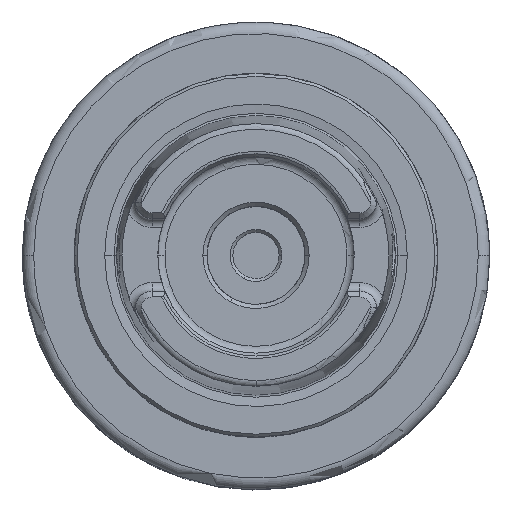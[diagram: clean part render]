
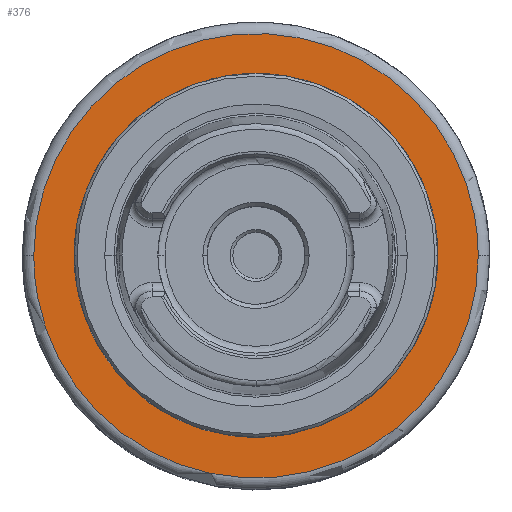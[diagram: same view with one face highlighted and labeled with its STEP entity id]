
A CAD part, top view. The second image highlights one B-rep face of the part: STEP entity #376.
In plain terms, the highlighted planar face has unit normal (0, 0, 1).
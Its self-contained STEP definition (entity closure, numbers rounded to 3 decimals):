
#209=AXIS2_PLACEMENT_3D('Circle Axis2P3D',#207,#208,$) ;
#310=AXIS2_PLACEMENT_3D('Plane Axis2P3D',#307,#308,#309) ;
#204=CARTESIAN_POINT('Vertex',(28.85,0.,-54.45)) ;
#207=CARTESIAN_POINT('Axis2P3D Location',(0.,0.,-54.45)) ;
#211=CARTESIAN_POINT('Vertex',(-28.85,0.,-54.45)) ;
#283=CARTESIAN_POINT('Control Point',(28.85,0.,-54.45)) ;
#284=CARTESIAN_POINT('Control Point',(28.85,-4.532,-54.45)) ;
#285=CARTESIAN_POINT('Control Point',(27.96,-9.063,-54.45)) ;
#286=CARTESIAN_POINT('Control Point',(26.18,-13.362,-54.45)) ;
#287=CARTESIAN_POINT('Control Point',(21.029,-21.029,-54.45)) ;
#288=CARTESIAN_POINT('Control Point',(13.362,-26.18,-54.45)) ;
#289=CARTESIAN_POINT('Control Point',(9.063,-27.96,-54.45)) ;
#290=CARTESIAN_POINT('Control Point',(0.,-29.74,-54.45)) ;
#291=CARTESIAN_POINT('Control Point',(-9.063,-27.96,-54.45)) ;
#292=CARTESIAN_POINT('Control Point',(-13.362,-26.18,-54.45)) ;
#293=CARTESIAN_POINT('Control Point',(-21.029,-21.029,-54.45)) ;
#294=CARTESIAN_POINT('Control Point',(-26.18,-13.362,-54.45)) ;
#295=CARTESIAN_POINT('Control Point',(-27.96,-9.063,-54.45)) ;
#296=CARTESIAN_POINT('Control Point',(-28.85,-4.532,-54.45)) ;
#297=CARTESIAN_POINT('Control Point',(-28.85,0.,-54.45)) ;
#307=CARTESIAN_POINT('Axis2P3D Location',(0.,38.5,-54.45)) ;
#313=CARTESIAN_POINT('Control Point',(-38.5,0.,-54.45)) ;
#314=CARTESIAN_POINT('Control Point',(-38.5,3.648,-54.45)) ;
#315=CARTESIAN_POINT('Control Point',(-38.068,7.295,-54.45)) ;
#316=CARTESIAN_POINT('Control Point',(-37.204,10.875,-54.45)) ;
#317=CARTESIAN_POINT('Control Point',(-34.645,17.761,-54.45)) ;
#318=CARTESIAN_POINT('Control Point',(-30.548,23.859,-54.45)) ;
#319=CARTESIAN_POINT('Control Point',(-28.146,26.65,-54.45)) ;
#320=CARTESIAN_POINT('Control Point',(-22.727,31.61,-54.45)) ;
#321=CARTESIAN_POINT('Control Point',(-16.299,35.167,-54.45)) ;
#322=CARTESIAN_POINT('Control Point',(-12.888,36.555,-54.45)) ;
#323=CARTESIAN_POINT('Control Point',(-5.803,38.497,-54.45)) ;
#324=CARTESIAN_POINT('Control Point',(1.539,38.73,-54.45)) ;
#325=CARTESIAN_POINT('Control Point',(5.208,38.409,-54.45)) ;
#326=CARTESIAN_POINT('Control Point',(12.398,36.905,-54.45)) ;
#327=CARTESIAN_POINT('Control Point',(19.039,33.763,-54.45)) ;
#328=CARTESIAN_POINT('Control Point',(22.157,31.804,-54.45)) ;
#329=CARTESIAN_POINT('Control Point',(27.869,27.185,-54.45)) ;
#330=CARTESIAN_POINT('Control Point',(32.345,21.359,-54.45)) ;
#331=CARTESIAN_POINT('Control Point',(34.226,18.193,-54.45)) ;
#332=CARTESIAN_POINT('Control Point',(36.654,12.714,-54.45)) ;
#333=CARTESIAN_POINT('Control Point',(37.983,6.895,-54.45)) ;
#334=CARTESIAN_POINT('Control Point',(38.328,4.608,-54.45)) ;
#335=CARTESIAN_POINT('Control Point',(38.5,2.304,-54.45)) ;
#336=CARTESIAN_POINT('Control Point',(38.5,0.,-54.45)) ;
#337=CARTESIAN_POINT('Vertex',(-38.5,0.,-54.45)) ;
#339=CARTESIAN_POINT('Vertex',(38.5,0.,-54.45)) ;
#343=CARTESIAN_POINT('Control Point',(38.5,0.,-54.45)) ;
#344=CARTESIAN_POINT('Control Point',(38.5,-3.648,-54.45)) ;
#345=CARTESIAN_POINT('Control Point',(38.068,-7.295,-54.45)) ;
#346=CARTESIAN_POINT('Control Point',(37.204,-10.875,-54.45)) ;
#347=CARTESIAN_POINT('Control Point',(34.645,-17.761,-54.45)) ;
#348=CARTESIAN_POINT('Control Point',(30.548,-23.859,-54.45)) ;
#349=CARTESIAN_POINT('Control Point',(28.146,-26.65,-54.45)) ;
#350=CARTESIAN_POINT('Control Point',(22.727,-31.61,-54.45)) ;
#351=CARTESIAN_POINT('Control Point',(16.299,-35.167,-54.45)) ;
#352=CARTESIAN_POINT('Control Point',(12.888,-36.555,-54.45)) ;
#353=CARTESIAN_POINT('Control Point',(5.803,-38.497,-54.45)) ;
#354=CARTESIAN_POINT('Control Point',(-1.539,-38.73,-54.45)) ;
#355=CARTESIAN_POINT('Control Point',(-5.208,-38.409,-54.45)) ;
#356=CARTESIAN_POINT('Control Point',(-12.398,-36.905,-54.45)) ;
#357=CARTESIAN_POINT('Control Point',(-19.039,-33.763,-54.45)) ;
#358=CARTESIAN_POINT('Control Point',(-22.157,-31.804,-54.45)) ;
#359=CARTESIAN_POINT('Control Point',(-27.869,-27.185,-54.45)) ;
#360=CARTESIAN_POINT('Control Point',(-32.345,-21.359,-54.45)) ;
#361=CARTESIAN_POINT('Control Point',(-34.226,-18.193,-54.45)) ;
#362=CARTESIAN_POINT('Control Point',(-36.654,-12.714,-54.45)) ;
#363=CARTESIAN_POINT('Control Point',(-37.983,-6.895,-54.45)) ;
#364=CARTESIAN_POINT('Control Point',(-38.328,-4.608,-54.45)) ;
#365=CARTESIAN_POINT('Control Point',(-38.5,-2.304,-54.45)) ;
#366=CARTESIAN_POINT('Control Point',(-38.5,0.,-54.45)) ;
#208=DIRECTION('Axis2P3D Direction',(0.,0.,-1.)) ;
#308=DIRECTION('Axis2P3D Direction',(0.,0.,1.)) ;
#309=DIRECTION('Axis2P3D XDirection',(1.,0.,0.)) ;
#369=ORIENTED_EDGE('',*,*,#341,.F.) ;
#370=ORIENTED_EDGE('',*,*,#367,.F.) ;
#373=ORIENTED_EDGE('',*,*,#213,.T.) ;
#374=ORIENTED_EDGE('',*,*,#298,.T.) ;
#375=FACE_BOUND('',#372,.T.) ;
#376=ADVANCED_FACE('NOCUT',(#371,#375),#311,.T.) ;
#282=B_SPLINE_CURVE_WITH_KNOTS('',5,(#283,#284,#285,#286,#287,#288,#289,#290,#291,#292,#293,#294,#295,#296,#297),.UNSPECIFIED.,.F.,.U.,(6,3,3,3,6),(-45.317,-22.659,0.,22.659,45.317),.UNSPECIFIED.) ;
#312=B_SPLINE_CURVE_WITH_KNOTS('',5,(#313,#314,#315,#316,#317,#318,#319,#320,#321,#322,#323,#324,#325,#326,#327,#328,#329,#330,#331,#332,#333,#334,#335,#336),.UNSPECIFIED.,.F.,.U.,(6,3,3,3,3,3,3,6),(0.,25.793,51.586,77.378,103.171,128.964,154.757,171.05),.UNSPECIFIED.) ;
#342=B_SPLINE_CURVE_WITH_KNOTS('',5,(#343,#344,#345,#346,#347,#348,#349,#350,#351,#352,#353,#354,#355,#356,#357,#358,#359,#360,#361,#362,#363,#364,#365,#366),.UNSPECIFIED.,.F.,.U.,(6,3,3,3,3,3,3,6),(0.,25.793,51.586,77.378,103.171,128.964,154.757,171.05),.UNSPECIFIED.) ;
#210=CIRCLE('generated circle',#209,28.85) ;
#213=EDGE_CURVE('',#212,#205,#210,.T.) ;
#298=EDGE_CURVE('',#205,#212,#282,.T.) ;
#341=EDGE_CURVE('',#338,#340,#312,.T.) ;
#367=EDGE_CURVE('',#340,#338,#342,.T.) ;
#368=EDGE_LOOP('',(#369,#370)) ;
#372=EDGE_LOOP('',(#373,#374)) ;
#371=FACE_OUTER_BOUND('',#368,.T.) ;
#311=PLANE('',#310) ;
#205=VERTEX_POINT('',#204) ;
#212=VERTEX_POINT('',#211) ;
#338=VERTEX_POINT('',#337) ;
#340=VERTEX_POINT('',#339) ;
